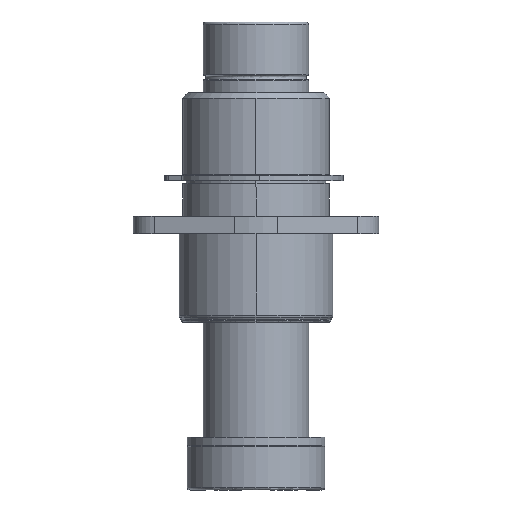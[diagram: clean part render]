
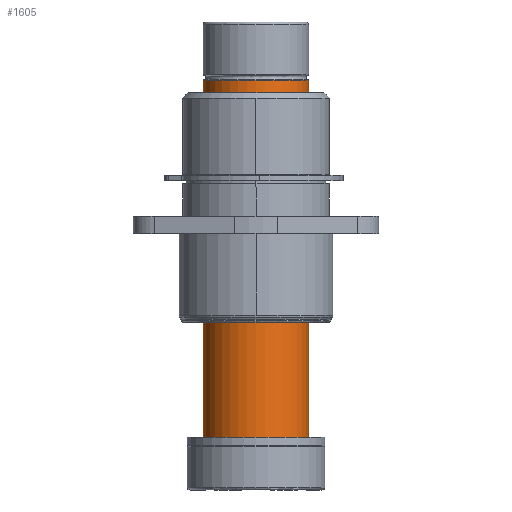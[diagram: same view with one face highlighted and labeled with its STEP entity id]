
A CAD part, front view. The second image highlights one B-rep face of the part: STEP entity #1605.
In plain terms, the highlighted cylindrical face has radius 19.028 mm (diameter 38.057 mm), a partial arc.
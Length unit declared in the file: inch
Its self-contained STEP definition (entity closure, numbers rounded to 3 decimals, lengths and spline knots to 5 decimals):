
#157 = CIRCLE ( 'NONE', #4560, 0.74915 ) ;
#621 = CARTESIAN_POINT ( 'NONE',  ( -0.74915, 0., -6.455 ) ) ;
#689 = CARTESIAN_POINT ( 'NONE',  ( 0., 0., -6.455 ) ) ;
#953 = CYLINDRICAL_SURFACE ( 'NONE', #2112, 0.74915 ) ;
#959 = DIRECTION ( 'NONE',  ( 0., 0., -1. ) ) ;
#1014 = LINE ( 'NONE', #3523, #2377 ) ;
#1073 = VERTEX_POINT ( 'NONE', #3725 ) ;
#1338 = DIRECTION ( 'NONE',  ( 0., 0., 1. ) ) ;
#1355 = CARTESIAN_POINT ( 'NONE',  ( 0.74915, 0., -0.82499 ) ) ;
#1427 = VERTEX_POINT ( 'NONE', #1954 ) ;
#1432 = ORIENTED_EDGE ( 'NONE', *, *, #2363, .T. ) ;
#1598 = CARTESIAN_POINT ( 'NONE',  ( 0., 0., -0.82499 ) ) ;
#1605 = ADVANCED_FACE ( 'NONE', ( #2657 ), #953, .T. ) ;
#1702 = DIRECTION ( 'NONE',  ( 1., 0., 0. ) ) ;
#1803 = DIRECTION ( 'NONE',  ( 0., 0., 1. ) ) ;
#1822 = LINE ( 'NONE', #621, #4594 ) ;
#1954 = CARTESIAN_POINT ( 'NONE',  ( -0.74915, 0., -6. ) ) ;
#2112 = AXIS2_PLACEMENT_3D ( 'NONE', #689, #1803, #4693 ) ;
#2363 = EDGE_CURVE ( 'NONE', #2375, #1073, #2960, .T. ) ;
#2375 = VERTEX_POINT ( 'NONE', #1355 ) ;
#2377 = VECTOR ( 'NONE', #3557, 39.37008 ) ;
#2403 = EDGE_CURVE ( 'NONE', #1427, #1073, #1822, .T. ) ;
#2420 = DIRECTION ( 'NONE',  ( 0., 0., 1. ) ) ;
#2657 = FACE_OUTER_BOUND ( 'NONE', #3465, .T. ) ;
#2850 = ORIENTED_EDGE ( 'NONE', *, *, #4161, .T. ) ;
#2960 = CIRCLE ( 'NONE', #3768, 0.74915 ) ;
#3135 = ORIENTED_EDGE ( 'NONE', *, *, #2403, .F. ) ;
#3465 = EDGE_LOOP ( 'NONE', ( #3135, #4635, #2850, #1432 ) ) ;
#3473 = CARTESIAN_POINT ( 'NONE',  ( 0., 0., -6. ) ) ;
#3523 = CARTESIAN_POINT ( 'NONE',  ( 0.74915, 0., -6.455 ) ) ;
#3524 = DIRECTION ( 'NONE',  ( 1., 0., 0. ) ) ;
#3557 = DIRECTION ( 'NONE',  ( 0., 0., 1. ) ) ;
#3725 = CARTESIAN_POINT ( 'NONE',  ( -0.74915, 0., -0.82499 ) ) ;
#3732 = CARTESIAN_POINT ( 'NONE',  ( 0.74915, 0., -6. ) ) ;
#3749 = EDGE_CURVE ( 'NONE', #1427, #4684, #157, .T. ) ;
#3768 = AXIS2_PLACEMENT_3D ( 'NONE', #1598, #959, #3524 ) ;
#4161 = EDGE_CURVE ( 'NONE', #4684, #2375, #1014, .T. ) ;
#4560 = AXIS2_PLACEMENT_3D ( 'NONE', #3473, #1338, #1702 ) ;
#4594 = VECTOR ( 'NONE', #2420, 39.37008 ) ;
#4635 = ORIENTED_EDGE ( 'NONE', *, *, #3749, .T. ) ;
#4684 = VERTEX_POINT ( 'NONE', #3732 ) ;
#4693 = DIRECTION ( 'NONE',  ( 1., 0., 0. ) ) ;
